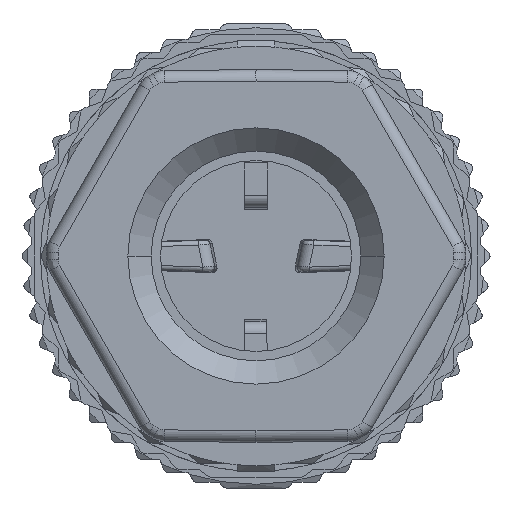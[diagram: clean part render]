
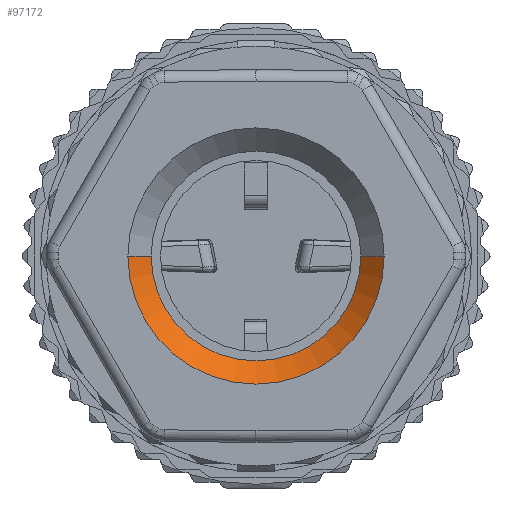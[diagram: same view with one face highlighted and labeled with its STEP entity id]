
A CAD part, left-side view. The second image highlights one B-rep face of the part: STEP entity #97172.
In plain terms, the highlighted conical face has half-angle 45 degrees and reference radius 5 mm.
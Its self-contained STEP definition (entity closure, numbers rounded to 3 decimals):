
#9038=CARTESIAN_POINT('',(-26.178,0.,0.));
#9039=DIRECTION('',(1.,0.,0.));
#9040=DIRECTION('',(0.,-1.,0.));
#9041=AXIS2_PLACEMENT_3D('',#9038,#9039,#9040);
#11005=DIRECTION('',(0.707,0.707,0.));
#11006=VECTOR('',#11005,1.414);
#11007=CARTESIAN_POINT('',(-26.178,-5.5,
0.));
#11008=LINE('',#11007,#11006);
#11009=DIRECTION('',(0.707,-0.707,0.));
#11010=VECTOR('',#11009,1.414);
#11011=CARTESIAN_POINT('',(-26.178,5.5,
0.));
#11012=LINE('',#11011,#11010);
#11031=CARTESIAN_POINT('',(-25.178,0.,0.));
#11032=DIRECTION('',(1.,0.,0.));
#11033=DIRECTION('',(0.,-1.,0.));
#11034=AXIS2_PLACEMENT_3D('',#11031,#11032,#11033);
#89669=CARTESIAN_POINT('',(-26.178,-5.5,0.));
#89670=CARTESIAN_POINT('',(-26.178,5.5,0.));
#89671=VERTEX_POINT('',#89669);
#89672=VERTEX_POINT('',#89670);
#89673=CARTESIAN_POINT('',(-25.178,-4.5,0.));
#89674=CARTESIAN_POINT('',(-25.178,4.5,0.));
#89675=VERTEX_POINT('',#89673);
#89676=VERTEX_POINT('',#89674);
#97158=CARTESIAN_POINT('',(-25.678,0.,0.));
#97159=DIRECTION('',(-1.,0.,0.));
#97160=DIRECTION('',(0.,0.,-1.));
#97161=AXIS2_PLACEMENT_3D('',#97158,#97159,#97160);
#97162=CONICAL_SURFACE('',#97161,5.,45.);
#97163=ORIENTED_EDGE('',*,*,#95240,.T.);
#97165=ORIENTED_EDGE('',*,*,#97164,.T.);
#97167=ORIENTED_EDGE('',*,*,#97166,.F.);
#97169=ORIENTED_EDGE('',*,*,#97168,.F.);
#97170=EDGE_LOOP('',(#97163,#97165,#97167,#97169));
#97171=FACE_OUTER_BOUND('',#97170,.F.);
#97172=ADVANCED_FACE('',(#97171),#97162,.F.);
#9042=CIRCLE('',#9041,5.5);
#11035=CIRCLE('',#11034,4.5);
#95240=EDGE_CURVE('',#89671,#89672,#9042,.T.);
#97164=EDGE_CURVE('',#89672,#89676,#11012,.T.);
#97166=EDGE_CURVE('',#89675,#89676,#11035,.T.);
#97168=EDGE_CURVE('',#89671,#89675,#11008,.T.);
